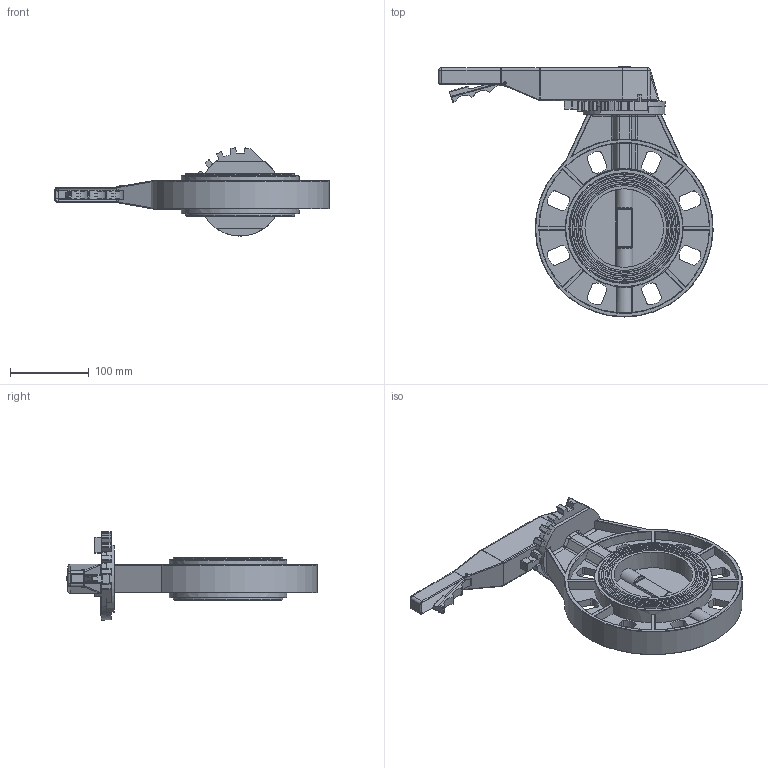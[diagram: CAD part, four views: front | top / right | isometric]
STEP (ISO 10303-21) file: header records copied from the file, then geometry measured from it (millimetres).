
FILE_DESCRIPTION(('STEP AP242'), '1');
FILE_NAME('WBV4242E-2W-Fb-H 青蜮铕 滂耜钼 DN.ru 捏100 畜10', '', ('UNSPECIFIED'), ('UNSPECIFIED'), 'C3D Converter', 'C3D Toolkit', '');
FILE_SCHEMA(('AP242_MANAGED_MODEL_BASED_3D_ENGINEERING_MIM_LF { 1 0 10303 442 1 1 4 }'));
Length unit declared in the file: millimetre
Products named in the file (1): WBV4242E-2W-Fb-H
Bounding box: 349.22 x 318.36 x 112.16 mm (x, y, z)
Volume: 1160028.7 mm3; surface area: 334632.1 mm2
Topology: 2 solids, 2 shells, 969 faces, 2456 edges, 1529 vertices
Faces by surface type: plane 353, cylinder 279, bspline 255, torus 74, sphere 8
Full cylindrical faces by diameter (mm): 15 x1, 22 x2, 100 x2, 139.2 x1, 140 x1, 150 x2
Entity records: 71401 total; most frequent: CARTESIAN_POINT 42006, ORIENTED_EDGE 4842, DIRECTION 3826, EDGE_CURVE 2421, VERTEX_POINT 1529, AXIS2_PLACEMENT_3D 1331, LINE 1164, VECTOR 1164
